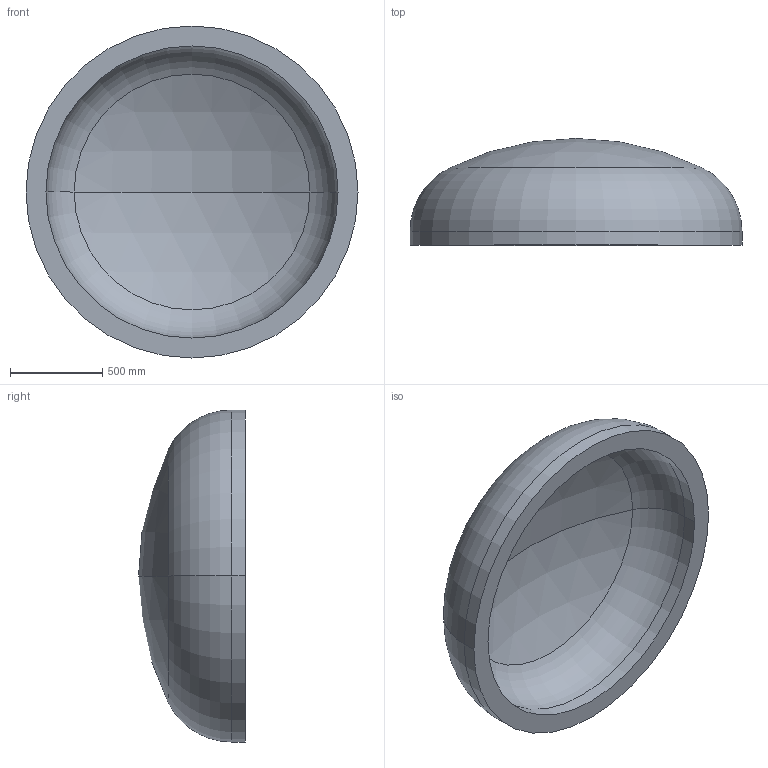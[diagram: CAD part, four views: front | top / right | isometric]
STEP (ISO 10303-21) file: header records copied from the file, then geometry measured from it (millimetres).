
FILE_DESCRIPTION (( 'STEP AP203' ), '1' );
FILE_NAME ('DIN 28013 Korbbogenform_-_Boden DIN 28013 - 1800 x 75 - I - s=108.step', '2016-07-01T12:47:06', ( '' ), ( '' ), 'SwSTEP 2.0', 'SolidWorks 2013', '' );
FILE_SCHEMA (( 'CONFIG_CONTROL_DESIGN' ));
Length unit declared in the file: millimetre
Products named in the file (1): DIN 28013 Korbbogenform_-_Boden DIN 28013 - 1800 x 75 - I - s=108
Bounding box: 1800 x 579 x 1800 mm (x, y, z)
Volume: 395083162.2 mm3; surface area: 7914864.1 mm2
Topology: 1 solids, 1 shells, 13 faces, 24 edges, 14 vertices
Faces by surface type: torus 4, cylinder 4, sphere 4, plane 1
Entity records: 407 total; most frequent: DIRECTION 72, CARTESIAN_POINT 52, ORIENTED_EDGE 48, AXIS2_PLACEMENT_3D 34, EDGE_CURVE 24, CIRCLE 20, EDGE_LOOP 14, VERTEX_POINT 14
